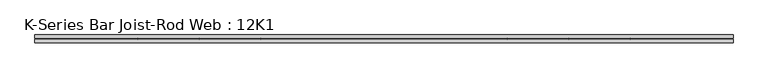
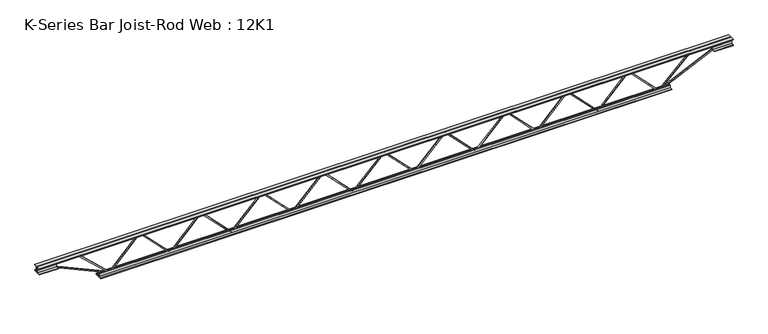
"""IFC4 building model written with IfcOpenShell, lengths in millimetres: beam geometry, K-Series Bar Joist-Rod Web : 12K1."""

from ifc_helpers import new_model, si_unit, frame, origin, place, context, project, spatial, polyline, outline, extrude, source, transform, mapped, element, save


def k_series_bar_joist_rod_web_12k1_aec08bc9(model_context):
    return source(origin(), model_context, "Body", "SweptSolid", [
        extrude(outline(polyline([(-141.2875, 1453.4444444), (-150.8125, 1453.4444444), (-150.8125, 1458.6298015), (141.2875, 1742.9686904), (141.2875, 1745.2979762), (-150.8125, 2029.6368651), (-150.8125, 2034.8222222), (-141.2875, 2034.8222222), (-141.2875, 2033.6575793), (150.8125, 1749.3186904), (150.8125, 1738.9479762), (-141.2875, 1454.6090874), (-141.2875, 1453.4444444)])), frame((0.0, -4.7625, 0.0), z_axis=(0.0, 1.0, 0.0), x_axis=(0.0, 0.0, 1.0)), (0.0, 0.0, 1.0), 9.525),
        extrude(outline(polyline([(-141.2875, 872.0666667), (-150.8125, 872.0666667), (-150.8125, 877.2520238), (141.2875, 1161.5909126), (141.2875, 1163.9201985), (-150.8125, 1448.2590874), (-150.8125, 1453.4444444), (-141.2875, 1453.4444444), (-141.2875, 1452.2798015), (150.8125, 1167.9409126), (150.8125, 1157.5701985), (-141.2875, 873.2313096), (-141.2875, 872.0666667)])), frame((0.0, -4.7625, 0.0), z_axis=(0.0, 1.0, 0.0), x_axis=(0.0, 0.0, 1.0)), (0.0, 0.0, 1.0), 9.525),
        extrude(outline(polyline([(-141.2875, 290.6888889), (-150.8125, 290.6888889), (-150.8125, 295.874246), (141.2875, 580.2131349), (141.2875, 582.5424207), (-150.8125, 866.8813096), (-150.8125, 872.0666667), (-141.2875, 872.0666667), (-141.2875, 870.9020238), (150.8125, 586.5631349), (150.8125, 576.1924207), (-141.2875, 291.8535318), (-141.2875, 290.6888889)])), frame((0.0, -4.7625, 0.0), z_axis=(0.0, 1.0, 0.0), x_axis=(0.0, 0.0, 1.0)), (0.0, 0.0, 1.0), 9.525),
        extrude(outline(polyline([(-141.2875, -290.6888889), (-150.8125, -290.6888889), (-150.8125, -285.5035318), (141.2875, -1.1646429), (141.2875, 1.1646429), (-150.8125, 285.5035318), (-150.8125, 290.6888889), (-141.2875, 290.6888889), (-141.2875, 289.524246), (150.8125, 5.1853571), (150.8125, -5.1853571), (-141.2875, -289.524246), (-141.2875, -290.6888889)])), frame((0.0, -4.7625, 0.0), z_axis=(0.0, 1.0, 0.0), x_axis=(0.0, 0.0, 1.0)), (0.0, 0.0, 1.0), 9.525),
        extrude(outline(polyline([(-141.2875, -872.0666667), (-150.8125, -872.0666667), (-150.8125, -866.8813096), (141.2875, -582.5424207), (141.2875, -580.2131349), (-150.8125, -295.874246), (-150.8125, -290.6888889), (-141.2875, -290.6888889), (-141.2875, -291.8535318), (150.8125, -576.1924207), (150.8125, -586.5631349), (-141.2875, -870.9020238), (-141.2875, -872.0666667)])), frame((0.0, -4.7625, 0.0), z_axis=(0.0, 1.0, 0.0), x_axis=(0.0, 0.0, 1.0)), (0.0, 0.0, 1.0), 9.525),
        extrude(outline(polyline([(-141.2875, -1453.4444444), (-150.8125, -1453.4444444), (-150.8125, -1448.2590874), (141.2875, -1163.9201985), (141.2875, -1161.5909126), (-150.8125, -877.2520238), (-150.8125, -872.0666667), (-141.2875, -872.0666667), (-141.2875, -873.2313096), (150.8125, -1157.5701985), (150.8125, -1167.9409126), (-141.2875, -1452.2798015), (-141.2875, -1453.4444444)])), frame((0.0, -4.7625, 0.0), z_axis=(0.0, 1.0, 0.0), x_axis=(0.0, 0.0, 1.0)), (0.0, 0.0, 1.0), 9.525),
        extrude(outline(polyline([(-141.2875, -2034.8222222), (-150.8125, -2034.8222222), (-150.8125, -2029.6368651), (141.2875, -1745.2979762), (141.2875, -1742.9686904), (-150.8125, -1458.6298015), (-150.8125, -1453.4444444), (-141.2875, -1453.4444444), (-141.2875, -1454.6090874), (150.8125, -1738.9479762), (150.8125, -1749.3186904), (-141.2875, -2033.6575793), (-141.2875, -2034.8222222)])), frame((0.0, -4.7625, 0.0), z_axis=(0.0, 1.0, 0.0), x_axis=(0.0, 0.0, 1.0)), (0.0, 0.0, 1.0), 9.525),
        extrude(outline(polyline([(-141.2875, 2034.8222222), (-150.8125, 2034.8222222), (-150.8125, 2040.0075793), (141.2875, 2324.3464682), (141.2875, 2326.675754), (-150.8125, 2611.0146429), (-150.8125, 2616.2), (-141.2875, 2616.2), (-141.2875, 2615.0353571), (150.8125, 2330.6964682), (150.8125, 2320.325754), (-141.2875, 2035.9868651), (-141.2875, 2034.8222222)])), frame((0.0, -4.7625, 0.0), z_axis=(0.0, 1.0, 0.0), x_axis=(0.0, 0.0, 1.0)), (0.0, 0.0, 1.0), 9.525),
        extrude(outline(polyline([(-141.2875, -2616.2), (-150.8125, -2616.2), (-150.8125, -2611.0146429), (141.2875, -2326.675754), (141.2875, -2324.3464682), (-150.8125, -2040.0075793), (-150.8125, -2034.8222222), (-141.2875, -2034.8222222), (-141.2875, -2035.9868651), (150.8125, -2320.325754), (150.8125, -2330.6964682), (-141.2875, -2615.0353571), (-141.2875, -2616.2)])), frame((0.0, -4.7625, 0.0), z_axis=(0.0, 1.0, 0.0), x_axis=(0.0, 0.0, 1.0)), (0.0, 0.0, 1.0), 9.525),
        extrude(outline(polyline([(4.7625, 152.4), (36.5125, 152.4), (36.5125, 146.05), (11.1125, 146.05), (11.1125, 120.65), (4.7625, 120.65), (4.7625, 152.4)])), frame((-3302.0, 0.0, 0.0), z_axis=(1.0, 0.0, 0.0), x_axis=(0.0, 1.0, 0.0)), (0.0, 0.0, 1.0), 6604.0),
        extrude(outline(polyline([(-4.7625, 152.4), (-4.7625, 120.65), (-11.1125, 120.65), (-11.1125, 146.05), (-36.5125, 146.05), (-36.5125, 152.4), (-4.7625, 152.4)])), frame((-3302.0, 0.0, 0.0), z_axis=(1.0, 0.0, 0.0), x_axis=(0.0, 1.0, 0.0)), (0.0, 0.0, 1.0), 6604.0),
        extrude(outline(polyline([(-4.7625, 88.9), (-36.5125, 88.9), (-36.5125, 95.25), (-11.1125, 95.25), (-11.1125, 120.65), (-4.7625, 120.65), (-4.7625, 88.9)])), frame((-3302.0, 0.0, 0.0), z_axis=(1.0, 0.0, 0.0), x_axis=(0.0, 1.0, 0.0)), (0.0, 0.0, 1.0), 177.8),
        extrude(outline(polyline([(36.5125, 88.9), (4.7625, 88.9), (4.7625, 120.65), (11.1125, 120.65), (11.1125, 95.25), (36.5125, 95.25), (36.5125, 88.9)])), frame((-3302.0, 0.0, 0.0), z_axis=(1.0, 0.0, 0.0), x_axis=(0.0, 1.0, 0.0)), (0.0, 0.0, 1.0), 177.8),
        extrude(outline(polyline([(4.7625, 88.9), (4.7625, 120.65), (11.1125, 120.65), (11.1125, 95.25), (36.5125, 95.25), (36.5125, 88.9), (4.7625, 88.9)])), frame((3124.2, 0.0, 0.0), z_axis=(1.0, 0.0, 0.0), x_axis=(0.0, 1.0, 0.0)), (0.0, 0.0, 1.0), 177.8),
        extrude(outline(polyline([(-4.7625, 88.9), (-36.5125, 88.9), (-36.5125, 95.25), (-11.1125, 95.25), (-11.1125, 120.65), (-4.7625, 120.65), (-4.7625, 88.9)])), frame((3124.2, 0.0, 0.0), z_axis=(1.0, 0.0, 0.0), x_axis=(0.0, 1.0, 0.0)), (0.0, 0.0, 1.0), 177.8),
        extrude(outline(polyline([(4.7625, -152.4), (4.7625, -120.65), (11.1125, -120.65), (11.1125, -146.05), (36.5125, -146.05), (36.5125, -152.4), (4.7625, -152.4)])), frame((-2717.8, 0.0, 0.0), z_axis=(1.0, 0.0, 0.0), x_axis=(0.0, 1.0, 0.0)), (0.0, 0.0, 1.0), 5435.6),
        extrude(outline(polyline([(-4.7625, -152.4), (-36.5125, -152.4), (-36.5125, -146.05), (-11.1125, -146.05), (-11.1125, -120.65), (-4.7625, -120.65), (-4.7625, -152.4)])), frame((-2717.8, 0.0, 0.0), z_axis=(1.0, 0.0, 0.0), x_axis=(0.0, 1.0, 0.0)), (0.0, 0.0, 1.0), 5435.6),
        extrude(outline(polyline([(125.4125, -3225.8), (115.8875, -3225.8), (115.8875, -3197.8129943), (-150.3777121, -2618.1880428), (-141.7222879, -2614.2119572), (125.4125, -3195.7298628), (125.4125, -3225.8)])), frame((0.0, -4.7625, 0.0), z_axis=(0.0, 1.0, 0.0), x_axis=(0.0, 0.0, 1.0)), (0.0, 0.0, 1.0), 9.525),
        extrude(outline(polyline([(138.1125, -2926.8460317), (128.5875, -2926.8460317), (128.5875, -2916.0297222), (-149.5239811, -2619.4577387), (-142.5760189, -2612.9422613), (138.1125, -2912.2623413), (138.1125, -2926.8460317)])), frame((0.0, -4.7625, 0.0), z_axis=(0.0, 1.0, 0.0), x_axis=(0.0, 0.0, 1.0)), (0.0, 0.0, 1.0), 9.525),
        extrude(outline(polyline([(0.0, -9.525), (0.0, 0.0), (635.3365674, 0.0), (635.3365674, -9.525), (0.0, -9.525)])), frame((2618.1991904, 4.7625, -150.3725738), z_axis=(-0.41977750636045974, 0.0, 0.9076270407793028), x_axis=(0.9076270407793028, 0.0, 0.41977750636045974)), (0.0, 0.0, 1.0), 9.525),
        extrude(outline(polyline([(0.0, -9.525), (0.0, 0.0), (422.4587409, 0.0), (422.4587409, -9.525), (0.0, -9.525)])), frame((2924.6961027, -4.7625, 142.609356), z_axis=(-0.6914284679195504, 0.0, 0.722444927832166), x_axis=(-0.722444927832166, 0.0, -0.6914284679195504)), (0.0, 0.0, 1.0), 9.525),
    ])


if __name__ == "__main__":
    model = new_model("IFC4")
    model_context = context("Model", 3, world=origin())
    ifc_project = project(units=[si_unit("LENGTHUNIT", "METRE", prefix="MILLI")], contexts=[model_context])
    site = spatial("IfcSite", under=ifc_project)
    building = spatial("IfcBuilding", under=site)
    placement = place(None, origin())
    k_series_bar_joist_rod_web_12k1_shape = k_series_bar_joist_rod_web_12k1_aec08bc9(model_context)
    element("IfcBeam", 1, ObjectType="K-Series Bar Joist-Rod Web : 12K1", at=placement, inside=building, context=model_context, shape_type="MappedRepresentation", body=[
        mapped(k_series_bar_joist_rod_web_12k1_shape, transform((0.0, 0.0, 0.0), x_axis=(1.0, 0.0, 0.0), y_axis=(0.0, 1.0, 0.0), z_axis=(0.0, 0.0, 1.0))),
    ])
    save(model, "model.ifc")
